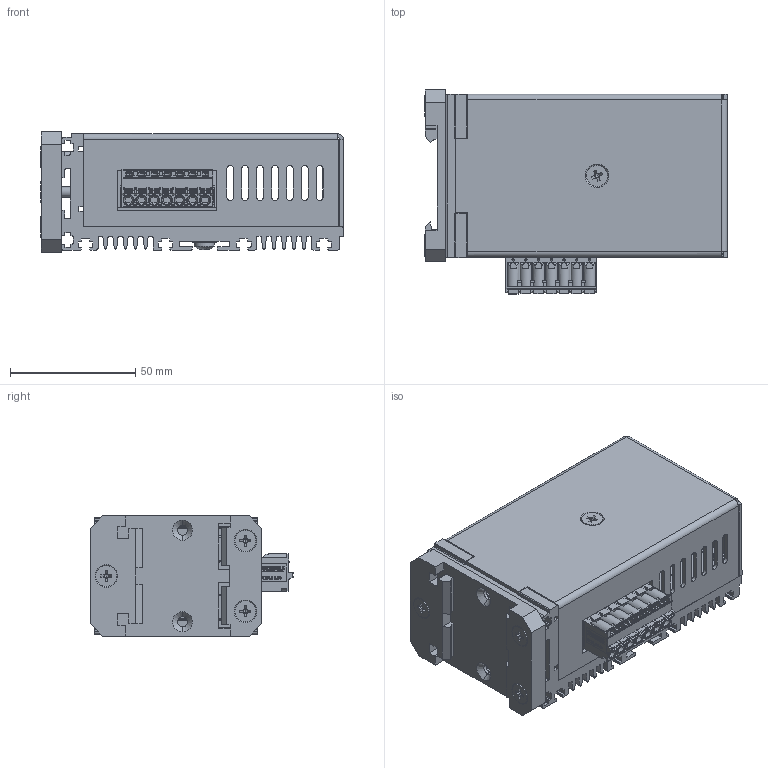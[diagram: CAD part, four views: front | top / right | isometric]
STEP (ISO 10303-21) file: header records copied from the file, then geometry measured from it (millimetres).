
FILE_DESCRIPTION (( 'STEP AP214' ), '1' );
FILE_NAME ('AL1220.STEP', '2025-05-07T16:20:44', ( '' ), ( '' ), 'SwSTEP 2.0', 'SolidWorks 2019', '' );
FILE_SCHEMA (( 'AUTOMOTIVE_DESIGN' ));
Length unit declared in the file: millimetre
Products named in the file (14): AL1220; SMLAL1220_V1; countersunk flat head cross recess screw_din_DIN EN ISO 7046-1 - M4 x 16 - Z - 16N; VITCOE-M3-060-FMNN; Label_AL1220; pan head cross recess screw_din_DIN EN ISO 7045 - M4 x 8 - Z - 8N; VITCOE-M4-350-FMNN; WASP04.3-09.5-180NIB; pan head cross recess screw_iso_ISO 7045 - M3 x 4 - Z - 4N; COVAL1220A-ALG; FIX-DIN6948; pan head cross recess screw_iso_ISO 7045 - M3 x 6 - Z --- 6N; HEAAL1120; 1942426_FKC-2-5-HC-7-ST-5-08
Assembly tree (22 placements, depth 2):
  AL1220
    HEAAL1120
    SMLAL1220_V1
    VITCOE-M3-060-FMNN  x4
    VITCOE-M4-350-FMNN
    pan head cross recess screw_iso_ISO 7045 - M3 x 4 - Z - 4N  x4
    pan head cross recess screw_iso_ISO 7045 - M3 x 6 - Z --- 6N
    WASP04.3-09.5-180NIB
    FIX-DIN6948
    countersunk flat head cross recess screw_din_DIN EN ISO 7046-1 - M4 x 16 - Z - 16N  x4
    pan head cross recess screw_din_DIN EN ISO 7045 - M4 x 8 - Z - 8N
    COVAL1220A-ALG
    Label_AL1220
    1942426_FKC-2-5-HC-7-ST-5-08
Bounding box: 120.77 x 81.35 x 48 mm (x, y, z)
Volume: 122504.2 mm3; surface area: 107838.9 mm2
Topology: 53 solids, 53 shells, 6200 faces, 16875 edges, 11082 vertices
Faces by surface type: plane 3817, cylinder 1070, bspline 973, cone 285, torus 32, sphere 23
Entity records: 285530 total; most frequent: CARTESIAN_POINT 111572, ORIENTED_EDGE 31836, DIRECTION 24224, EDGE_CURVE 15918, VECTOR 10856, LINE 10856, VERTEX_POINT 10534, AXIS2_PLACEMENT_3D 6684
